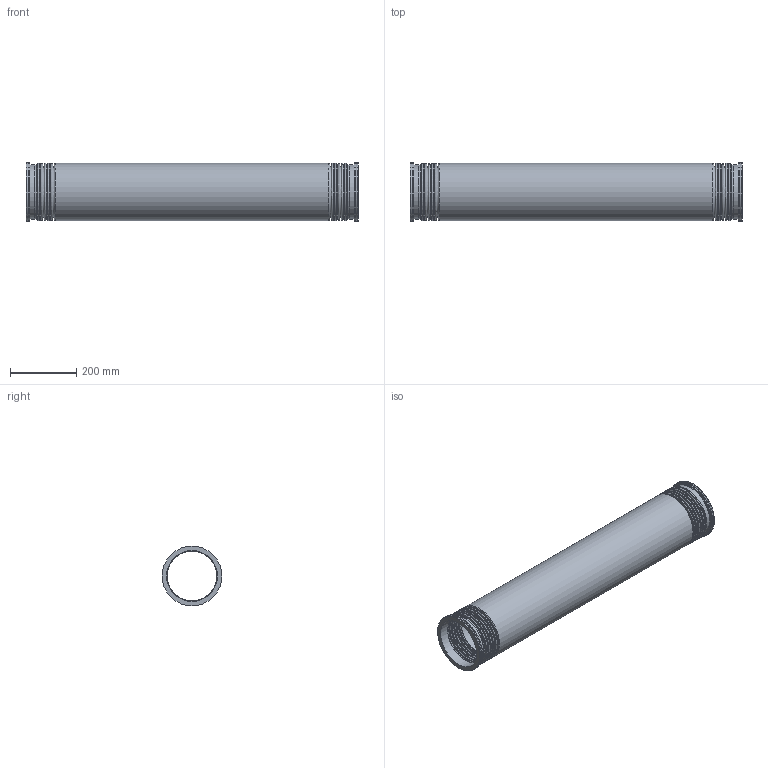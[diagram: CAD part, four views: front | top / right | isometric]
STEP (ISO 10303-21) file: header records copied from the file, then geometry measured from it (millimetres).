
FILE_DESCRIPTION((''),'2;1');
FILE_NAME('W:\M212-222.stp','2009-06-17T08:52:03',('KAA'),(''),'Autodesk Inventor 2009','Autodesk Inventor 2009','');
FILE_SCHEMA(('AUTOMOTIVE_DESIGN { 1 0 10303 214 1 1 1 1 }'));
Length unit declared in the file: millimetre
Products named in the file (1): 212-222
Bounding box: 1000 x 180 x 180 mm (x, y, z)
Volume: 423139.5 mm3; surface area: 1317759.4 mm2
Topology: 1 solids, 1 shells, 122 faces, 189 edges, 123 vertices
Faces by surface type: bspline 64, plane 33, cylinder 13, torus 12
Full cylindrical faces by diameter (mm): 153 x2, 163 x2, 165 x1, 172.6 x1, 173.2 x1, 176 x2, 180 x4
Entity records: 5478 total; most frequent: CARTESIAN_POINT 3473, DIRECTION 362, ORIENTED_EDGE 244, EDGE_LOOP 244, AXIS2_PLACEMENT_3D 181, STYLED_ITEM 123, VERTEX_POINT 122, CIRCLE 122
